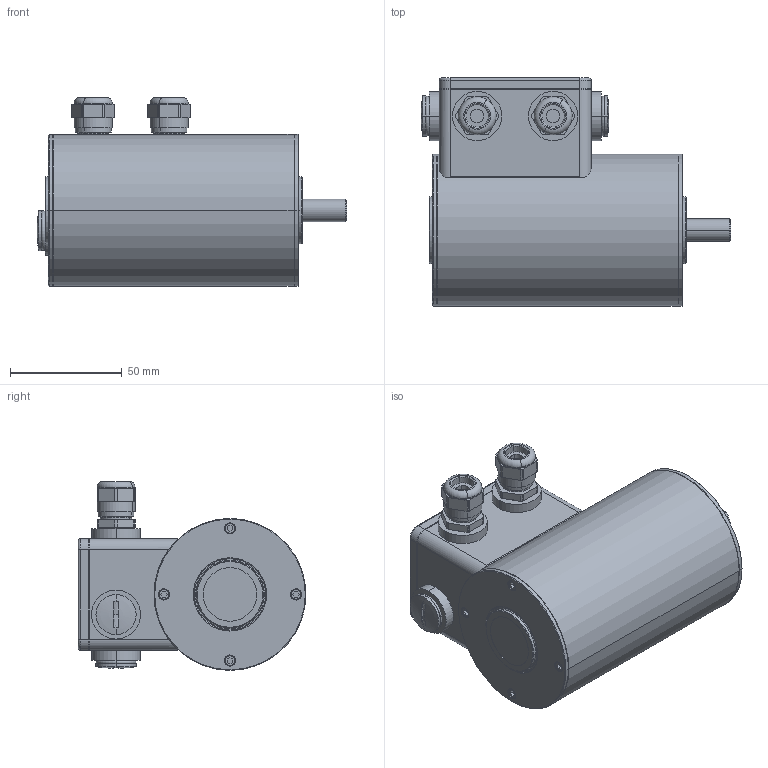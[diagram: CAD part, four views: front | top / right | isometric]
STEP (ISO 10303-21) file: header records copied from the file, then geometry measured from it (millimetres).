
FILE_DESCRIPTION (( 'STEP AP214' ), '1' );
FILE_NAME ('MQ667_K4M.STEP', '2019-02-18T15:12:15', ( 'admin' ), ( '' ), 'SwSTEP 2.0', 'SolidWorks 2017', '' );
FILE_SCHEMA (( 'AUTOMOTIVE_DESIGN' ));
Length unit declared in the file: millimetre
Products named in the file (5): MQ667_K4M; 937201981; 937702020; K4M_BG_6; MQ667 vereinfacht
Assembly tree (7 placements, depth 2):
  MQ667_K4M
    MQ667 vereinfacht
    K4M_BG_6
    937702020  x2
    937201981  x3
Bounding box: 138.51 x 102 x 84.5 mm (x, y, z)
Volume: 548161.4 mm3; surface area: 62116.2 mm2
Topology: 7 solids, 7 shells, 524 faces, 1161 edges, 713 vertices
Faces by surface type: plane 213, cylinder 181, cone 86, torus 40, sphere 4
Entity records: 12119 total; most frequent: DIRECTION 2079, CARTESIAN_POINT 2055, ORIENTED_EDGE 1754, EDGE_CURVE 877, AXIS2_PLACEMENT_3D 813, VERTEX_POINT 541, LINE 453, VECTOR 453
